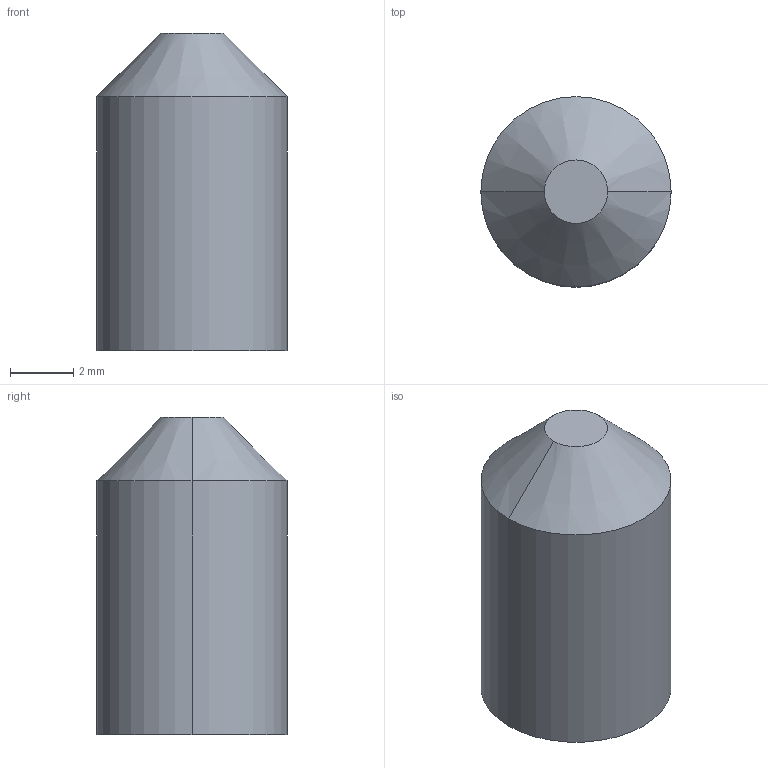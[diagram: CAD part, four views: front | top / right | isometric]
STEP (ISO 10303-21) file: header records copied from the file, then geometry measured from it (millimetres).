
FILE_DESCRIPTION (( 'STEP AP203' ), '1' );
FILE_NAME ('5080.STEP', '2016-04-23T06:52:09', ( '' ), ( '' ), 'SwSTEP 2.0', 'SolidWorks 2014', '' );
FILE_SCHEMA (( 'CONFIG_CONTROL_DESIGN' ));
Length unit declared in the file: millimetre
Products named in the file (1): 5080
Bounding box: 6 x 6 x 10 mm (x, y, z)
Volume: 230 mm3; surface area: 248.9 mm2
Topology: 1 solids, 1 shells, 13 faces, 28 edges, 18 vertices
Faces by surface type: plane 9, cone 2, cylinder 2
Entity records: 429 total; most frequent: DIRECTION 62, CARTESIAN_POINT 60, ORIENTED_EDGE 56, EDGE_CURVE 28, LINE 22, VECTOR 22, AXIS2_PLACEMENT_3D 20, VERTEX_POINT 18
